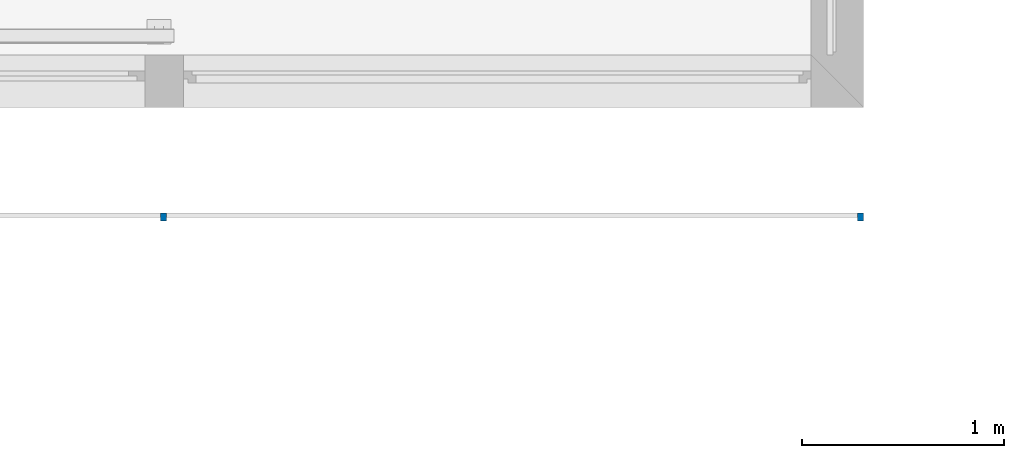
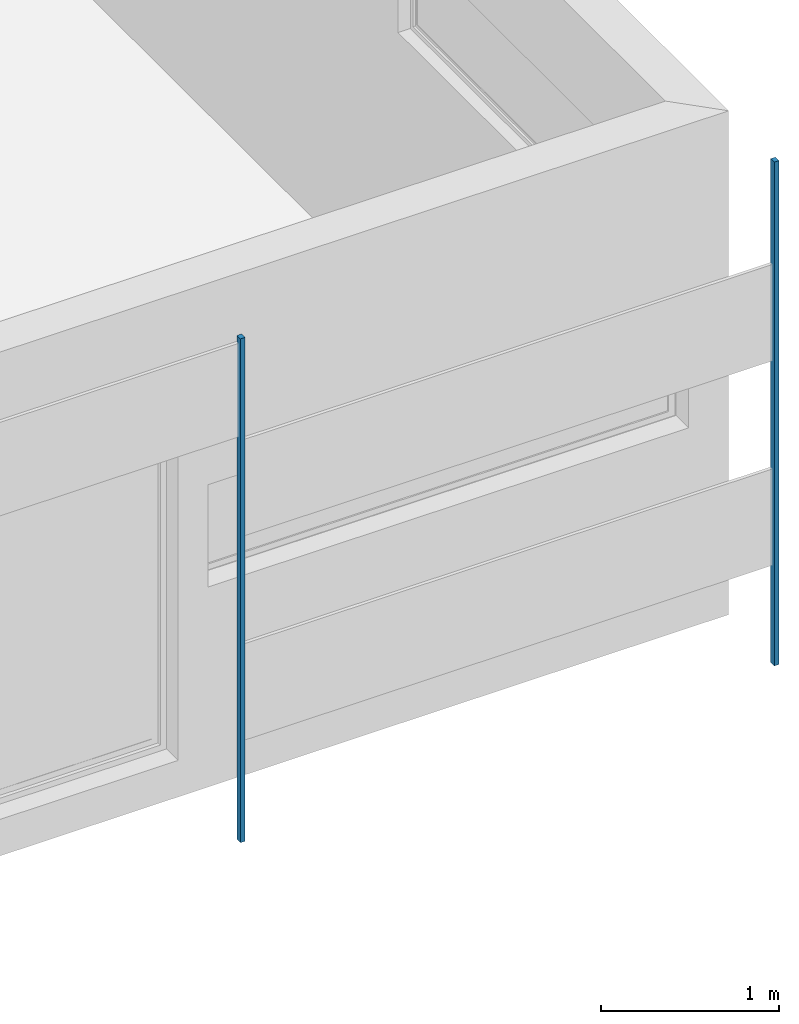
# One storey, part 2 of 14: 2 columns.
"""IFC2X3 building model written with IfcOpenShell, lengths in metres."""

from ifc_helpers import new_model, entity, si_unit, converted_unit, money_unit, direction, frame, origin_with_axes, origin_2d_with_axis, place, context, subcontext, project, spatial, rectangle, extrude, material, type_object, element, save


model = new_model("IFC2X3")

# Units and contexts
model_context = context("Model", 3, precision=1e-05, world=origin_with_axes(), true_north=direction((0.0, 1.0)))
body_context = subcontext(model_context, "Body", "Model", "MODEL_VIEW")
ifc_project = project(units=[si_unit("LENGTHUNIT", "METRE"), si_unit("AREAUNIT", "SQUARE_METRE"), si_unit("VOLUMEUNIT", "CUBIC_METRE"), converted_unit("PLANEANGLEUNIT", "DEGREE", entity("IfcPlaneAngleMeasure", 0.0174532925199), si_unit("PLANEANGLEUNIT", "RADIAN"), dimensions=[0, 0, 0, 0, 0, 0, 0]), si_unit("SOLIDANGLEUNIT", "STERADIAN"), money_unit("EUR"), converted_unit("TIMEUNIT", "Year", entity("IfcTimeMeasure", 31556926.0), si_unit("TIMEUNIT", "SECOND"), dimensions=[0, 0, 0, 0, 0, 0, 0]), si_unit("MASSUNIT", "GRAM"), si_unit("THERMODYNAMICTEMPERATUREUNIT", "DEGREE_CELSIUS"), si_unit("LUMINOUSINTENSITYUNIT", "LUMEN")], contexts=[model_context])

# Site, building, storey
site_placement = place(None, origin_with_axes())
site = spatial("IfcSite", under=ifc_project, at=site_placement, Name="Site", CompositionType="ELEMENT")
building_placement = place(site_placement, origin_with_axes())
building = spatial("IfcBuilding", under=site, at=building_placement, Name="Bâtiment", CompositionType="ELEMENT")
storey_placement = place(building_placement, frame((0.0, 0.0, 3.0), z_axis=(0.0, 0.0, 1.0), x_axis=(1.0, 0.0, 0.0)))
storey = spatial("IfcBuildingStorey", under=building, at=storey_placement, Name="NIVEAU HAUT ENTRÉE", CompositionType="ELEMENT", Elevation=3.0)

# Columns
ifc_material = material(Name="Empty Fill 1720032642")
column_type = type_object("IfcColumnType", Name="Empty Fill 1720032642 30 x 40", PredefinedType="NOTDEFINED")
for number, where, z_axis, x_axis, name in (
    (1, (63.785457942, 5.32555409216, -0.25), (0.0, 0.0, 1.0), (1.0, 0.0, 0.0), "Pilier-002"),
    (2, (67.243457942, 5.32555409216, -0.25), (0.0, 0.0, 1.0), (1.0, 0.0, 0.0), "Pilier-002"),
):
    element("IfcColumn", number, at=place(storey_placement, frame(where, z_axis=z_axis, x_axis=x_axis)), inside=storey, type_object=column_type, material=ifc_material, Name=name, ObjectType="Empty Fill 1720032642 30 x 40", context=body_context, shape_type="SweptSolid", body=[
        extrude(rectangle(XDim=0.03, YDim=0.04, at=origin_2d_with_axis()), origin_with_axes(), (0.0, 0.0, 1.0), 3.45),
    ])

save(model, "model.ifc")
